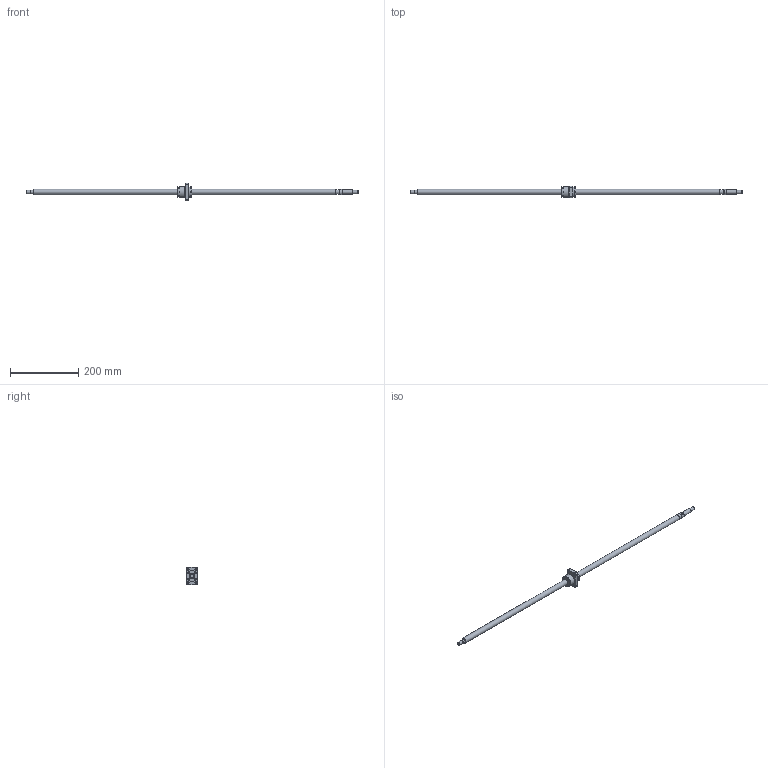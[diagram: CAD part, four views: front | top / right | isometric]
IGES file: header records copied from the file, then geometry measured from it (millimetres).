
Start section: Data from Parasolid IGES Translator 26.0.171, Copyright(c) 2006 Siemens PLM Software. All Rights Reserved.
Global section: file name: BNK1616-3.6G0+971LC5Y(4630).igs; native system: By Siemens PLM Incorporated; preprocessor: XPlus GENERIC/IGES 26.0.171; author: Noname; organization: Noname; date: 20240709.093115; units: millimetre
Bounding box: 971 x 34 x 50 mm (x, y, z)
Surface area: 59423.4 mm2 (no closed solid volume)
Topology: 0 solids, 0 shells, 139 faces, 653 edges, 598 vertices
Faces by surface type: extrusion 75, revolution 64
